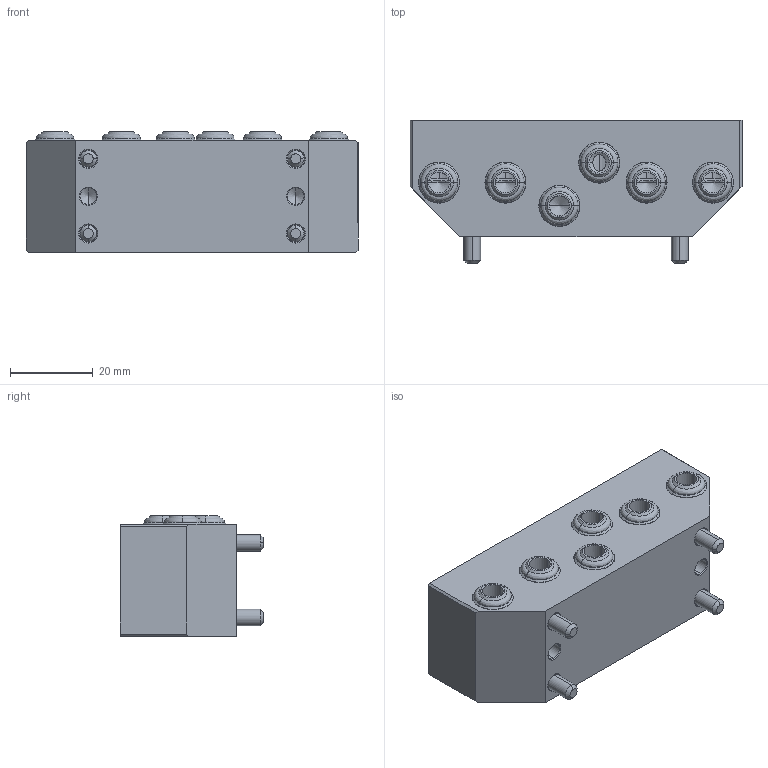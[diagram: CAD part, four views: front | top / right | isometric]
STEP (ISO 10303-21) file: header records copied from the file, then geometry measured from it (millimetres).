
FILE_DESCRIPTION (( 'STEP AP203' ), '1' );
FILE_NAME ('1QCAM-06G18R.STEP', '2024-03-14T07:59:33', ( '微软用户' ), ( '微软中国' ), 'SwSTEP 2.0', 'SolidWorks 2018', '' );
FILE_SCHEMA (( 'CONFIG_CONTROL_DESIGN' ));
Length unit declared in the file: millimetre
Products named in the file (1): 1QCAM-06G18R
Bounding box: 80 x 34.5 x 29 mm (x, y, z)
Volume: 49403.8 mm3; surface area: 17494.8 mm2
Topology: 1 solids, 8 shells, 378 faces, 861 edges, 510 vertices
Faces by surface type: cone 134, cylinder 108, plane 98, bspline 38
Entity records: 11260 total; most frequent: CARTESIAN_POINT 2692, DIRECTION 1879, ORIENTED_EDGE 1690, EDGE_CURVE 845, AXIS2_PLACEMENT_3D 745, VERTEX_POINT 510, EDGE_LOOP 431, CIRCLE 404
